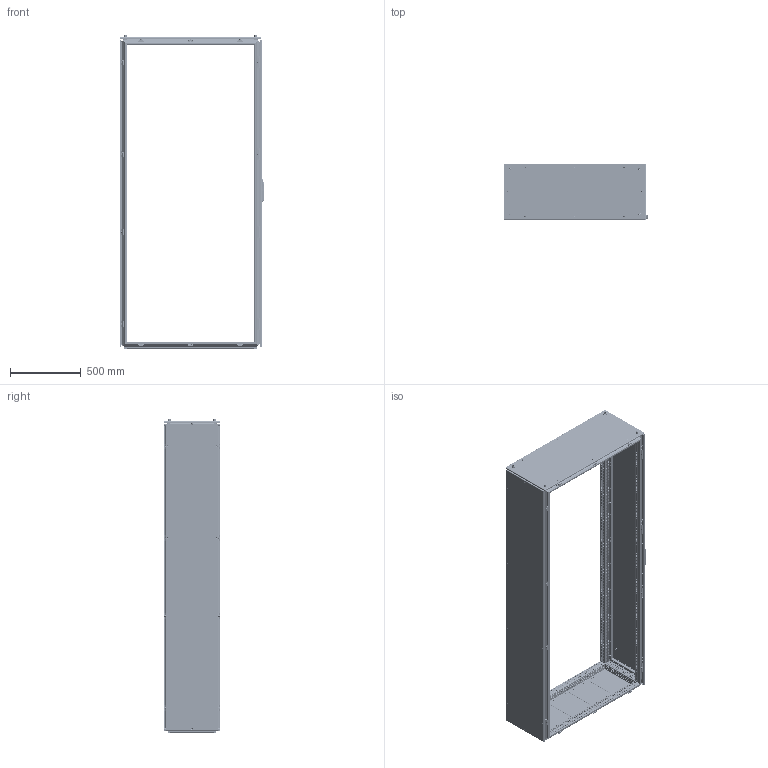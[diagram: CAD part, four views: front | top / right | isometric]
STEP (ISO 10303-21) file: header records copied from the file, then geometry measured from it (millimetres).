
FILE_DESCRIPTION(('STEP AP203'), '1');
FILE_NAME('ØÍÑ ÊÑ PRO II Êîðïóñ ÑÁ', '', ('UNSPECIFIED'), ('UNSPECIFIED'), 'C3D Converter', 'C3D Toolkit', '');
FILE_SCHEMA(('CONFIG_CONTROL_DESIGN'));
Length unit declared in the file: millimetre
Products named in the file (50): 3110.220.40.100; 3000; 3007.175; 3007.75; 3007.200; 3009.04; 3009.04.01; 3009.04.2; 3009.04.01.2; 3301; 3310; 3311; 3302; 3211; 3410; 3420; 3421; 3422.01; 3412; 3411; 2952; 3009.05; 3009.05.01; 3622.01; 3009.08; 3009.08.01
Assembly tree (297 placements, depth 5):
  3110.220.40.100
    3000
      3000
      (unnamed)  x88
      3007.175
      (unnamed)  x18
      3007.75
      3007.200  x3
      3009.04  x8
        3009.04.01
        (unnamed)
        (unnamed)
      3009.04.2  x15
        3009.04.01.2
        (unnamed)
        (unnamed)
    3301
      3310
        3311
        (unnamed)
      (unnamed)  x8
      (unnamed)  x8
      (unnamed)  x4
      (unnamed)  x4
    3302
      3211
      (unnamed)  x2
      (unnamed)  x10
    3410
      3420
        3421
        3422.01  x4
        (unnamed)  x12
        (unnamed)  x8
        (unnamed)  x2
      3412  x2
      3411  x2
      (unnamed)  x4
      (unnamed)  x12
      (unnamed)  x20
      (unnamed)  x8
      2952
        (unnamed)
          (unnamed)
          (unnamed)
          (unnamed)
          (unnamed)
          (unnamed)
      (unnamed)  x2
      3009.05  x4
        3009.05.01
        (unnamed)
        (unnamed)
      3622.01  x4
      (unnamed)  x4
      3009.08  x4
        3009.08.01
        (unnamed)
        (unnamed)
Bounding box: 1024.04 x 397.07 x 2216 mm (x, y, z)
Volume: 8762682.9 mm3; surface area: 11122326.6 mm2
Topology: 400 solids, 400 shells, 23408 faces, 64318 edges, 42292 vertices
Faces by surface type: plane 15923, cylinder 5636, cone 1185, torus 374, bspline 263, sphere 27
Full cylindrical faces by diameter (mm): 0.5 x20, 4.134 x134, 4.3 x2, 4.5 x2270, 4.8 x18, 4.917 x20, 5 x176, 5.2 x1, 5.5 x8, 5.8 x46, 6 x47, 6.1 x4, 6.6 x20, 6.75 x20, 6.8 x176, 7 x96, 7.3 x20, 7.5 x74, 8 x106, 8.3 x16, 8.5 x9, 9.2 x74, 10 x29, 10.106 x8, 10.5 x4, 11.5 x10, 12 x28, 13 x1, 13.5 x4, 14 x8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
Entity records: 501606 total; most frequent: CARTESIAN_POINT 107996, ORIENTED_EDGE 75484, DIRECTION 71678, EDGE_CURVE 37742, LINE 29966, VECTOR 29966, VERTEX_POINT 26461, EDGE_LOOP 25437
